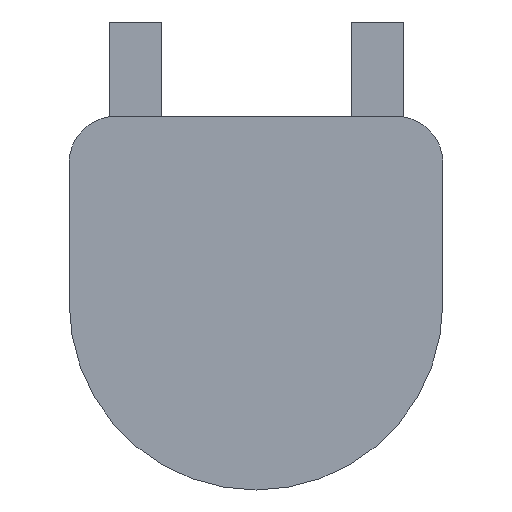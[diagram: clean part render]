
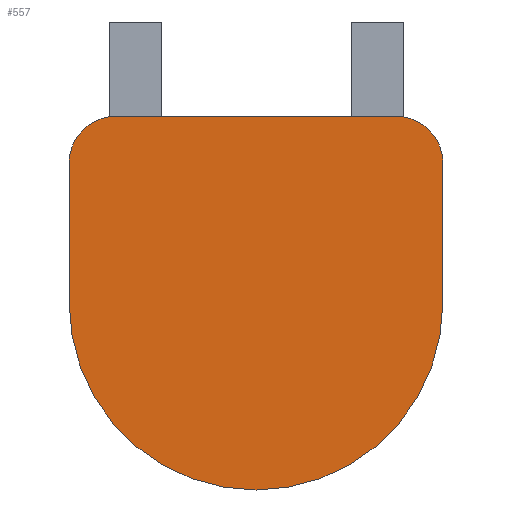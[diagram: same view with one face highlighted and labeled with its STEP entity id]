
A CAD part, front view. The second image highlights one B-rep face of the part: STEP entity #557.
In plain terms, the highlighted planar face has unit normal (0, -1, 0).
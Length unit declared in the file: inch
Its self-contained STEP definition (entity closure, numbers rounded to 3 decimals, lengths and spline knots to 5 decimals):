
#4 = AXIS2_PLACEMENT_3D ( 'NONE', #491, #386, #110 ) ;
#8 = EDGE_CURVE ( 'NONE', #166, #291, #475, .T. ) ;
#16 = CARTESIAN_POINT ( 'NONE',  ( 0., 0., 1. ) ) ;
#18 = DIRECTION ( 'NONE',  ( 0., 0., 1. ) ) ;
#24 = ORIENTED_EDGE ( 'NONE', *, *, #414, .F. ) ;
#44 = PLANE ( 'NONE',  #615 ) ;
#55 = CARTESIAN_POINT ( 'NONE',  ( 0.75, 0., 1. ) ) ;
#60 = ORIENTED_EDGE ( 'NONE', *, *, #455, .F. ) ;
#78 = CARTESIAN_POINT ( 'NONE',  ( 1., 0., 0.75 ) ) ;
#83 = CARTESIAN_POINT ( 'NONE',  ( -0.75, 0., 1. ) ) ;
#89 = DIRECTION ( 'NONE',  ( 0., 0., 1. ) ) ;
#101 = DIRECTION ( 'NONE',  ( 0., 0., -1. ) ) ;
#110 = DIRECTION ( 'NONE',  ( 0., 0., 1. ) ) ;
#123 = DIRECTION ( 'NONE',  ( 0., 0., 1. ) ) ;
#145 = FACE_OUTER_BOUND ( 'NONE', #537, .T. ) ;
#147 = EDGE_CURVE ( 'NONE', #233, #409, #331, .T. ) ;
#149 = ORIENTED_EDGE ( 'NONE', *, *, #8, .F. ) ;
#156 = CARTESIAN_POINT ( 'NONE',  ( -1., 0., 0. ) ) ;
#166 = VERTEX_POINT ( 'NONE', #189 ) ;
#189 = CARTESIAN_POINT ( 'NONE',  ( -1., 0., 0.75 ) ) ;
#195 = DIRECTION ( 'NONE',  ( 0., 0., 1. ) ) ;
#198 = CIRCLE ( 'NONE', #309, 1. ) ;
#209 = DIRECTION ( 'NONE',  ( 1., 0., 0. ) ) ;
#213 = ORIENTED_EDGE ( 'NONE', *, *, #147, .F. ) ;
#216 = CARTESIAN_POINT ( 'NONE',  ( -1., 0., 0. ) ) ;
#232 = CARTESIAN_POINT ( 'NONE',  ( 0., 0., -1. ) ) ;
#233 = VERTEX_POINT ( 'NONE', #78 ) ;
#239 = EDGE_CURVE ( 'NONE', #409, #620, #198, .T. ) ;
#240 = VERTEX_POINT ( 'NONE', #216 ) ;
#254 = DIRECTION ( 'NONE',  ( 0., 1., 0. ) ) ;
#268 = ORIENTED_EDGE ( 'NONE', *, *, #316, .F. ) ;
#274 = CARTESIAN_POINT ( 'NONE',  ( 0., 0., 0. ) ) ;
#291 = VERTEX_POINT ( 'NONE', #83 ) ;
#301 = CARTESIAN_POINT ( 'NONE',  ( 0., 0., 0. ) ) ;
#309 = AXIS2_PLACEMENT_3D ( 'NONE', #301, #362, #562 ) ;
#316 = EDGE_CURVE ( 'NONE', #357, #233, #469, .T. ) ;
#319 = AXIS2_PLACEMENT_3D ( 'NONE', #459, #606, #123 ) ;
#331 = LINE ( 'NONE', #435, #478 ) ;
#357 = VERTEX_POINT ( 'NONE', #55 ) ;
#362 = DIRECTION ( 'NONE',  ( 0., 1., 0. ) ) ;
#379 = EDGE_CURVE ( 'NONE', #291, #357, #398, .T. ) ;
#386 = DIRECTION ( 'NONE',  ( 0., 1., 0. ) ) ;
#390 = CIRCLE ( 'NONE', #4, 1. ) ;
#398 = LINE ( 'NONE', #16, #546 ) ;
#409 = VERTEX_POINT ( 'NONE', #441 ) ;
#414 = EDGE_CURVE ( 'NONE', #620, #240, #390, .T. ) ;
#435 = CARTESIAN_POINT ( 'NONE',  ( 1., 0., 0. ) ) ;
#441 = CARTESIAN_POINT ( 'NONE',  ( 1., 0., 0. ) ) ;
#447 = AXIS2_PLACEMENT_3D ( 'NONE', #617, #254, #18 ) ;
#455 = EDGE_CURVE ( 'NONE', #240, #166, #595, .T. ) ;
#456 = ORIENTED_EDGE ( 'NONE', *, *, #239, .F. ) ;
#459 = CARTESIAN_POINT ( 'NONE',  ( 0.75, 0., 0.75 ) ) ;
#469 = CIRCLE ( 'NONE', #319, 0.25 ) ;
#475 = CIRCLE ( 'NONE', #447, 0.25 ) ;
#478 = VECTOR ( 'NONE', #101, 39.37008 ) ;
#483 = ORIENTED_EDGE ( 'NONE', *, *, #379, .F. ) ;
#491 = CARTESIAN_POINT ( 'NONE',  ( 0., 0., 0. ) ) ;
#537 = EDGE_LOOP ( 'NONE', ( #456, #213, #268, #483, #149, #60, #24 ) ) ;
#546 = VECTOR ( 'NONE', #209, 39.37008 ) ;
#557 = ADVANCED_FACE ( 'NONE', ( #145 ), #44, .F. ) ;
#562 = DIRECTION ( 'NONE',  ( 0., 0., 1. ) ) ;
#568 = DIRECTION ( 'NONE',  ( 0., 1., 0. ) ) ;
#595 = LINE ( 'NONE', #156, #625 ) ;
#606 = DIRECTION ( 'NONE',  ( 0., 1., 0. ) ) ;
#615 = AXIS2_PLACEMENT_3D ( 'NONE', #274, #568, #89 ) ;
#617 = CARTESIAN_POINT ( 'NONE',  ( -0.75, 0., 0.75 ) ) ;
#620 = VERTEX_POINT ( 'NONE', #232 ) ;
#625 = VECTOR ( 'NONE', #195, 39.37008 ) ;
